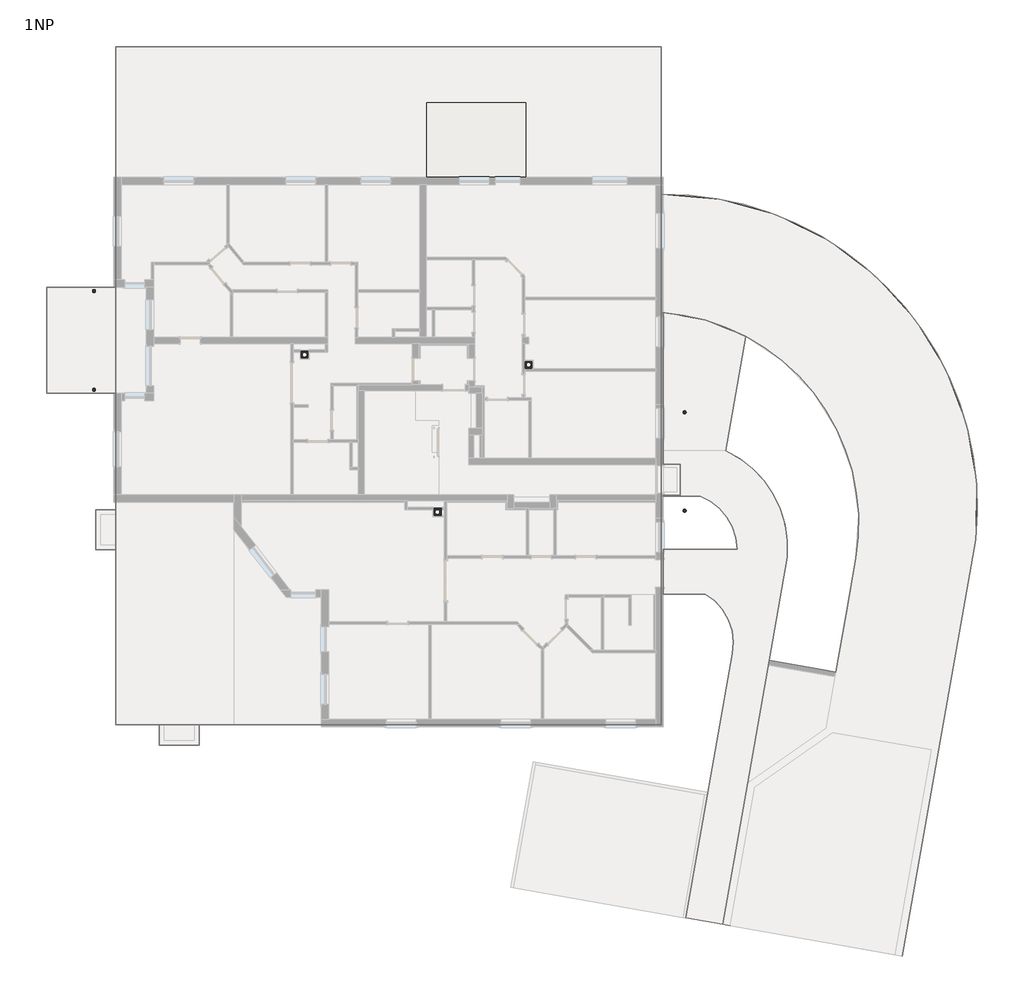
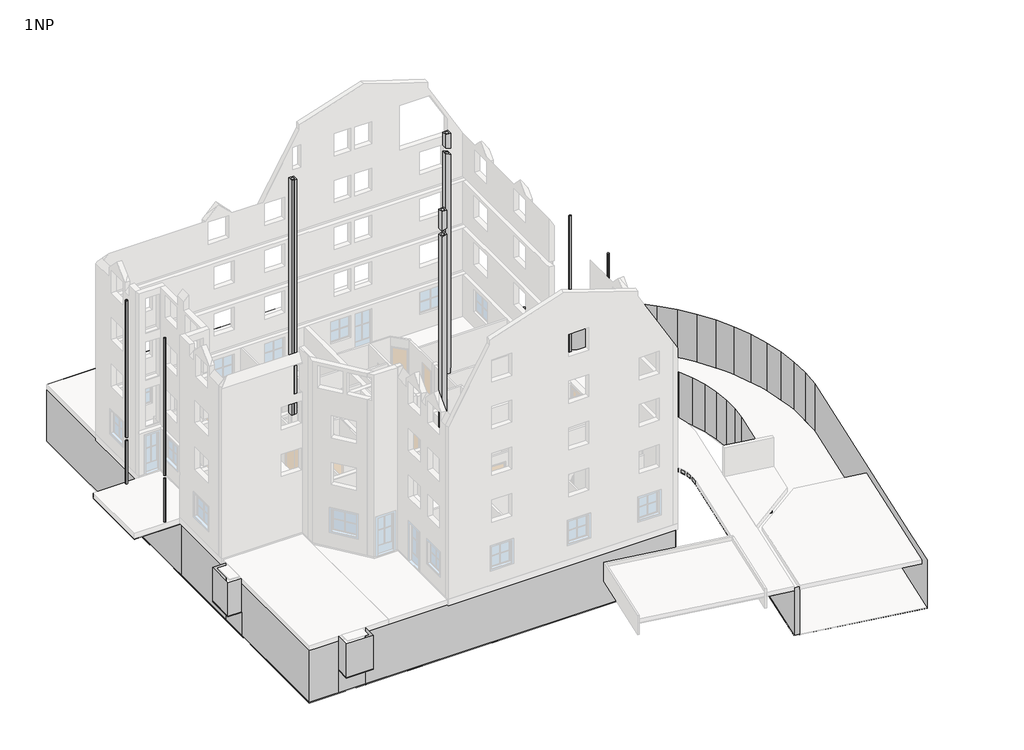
# One storey, part 7 of 7: 7 columns, 6 proxies, 1 slab.
"""IFC4 building model written with IfcOpenShell, lengths in millimetres."""

from ifc_helpers import new_model, si_unit, point, frame, frame_2d, origin, origin_with_axes, place, context, project, spatial, polyline, circle_curve, ellipse_curve, trimmed, segment, composite_curve, outline, extrude, triangles, element, save
from ifc_brep_helpers import plane_surface, revolved_surface, advanced_brep

model = new_model("IFC4")

# Units and contexts
model_context = context("Model", 3, world=origin())
ifc_project = project(units=[si_unit("LENGTHUNIT", "METRE", prefix="MILLI")], contexts=[model_context])

# Site, building, storey
site = spatial("IfcSite", under=ifc_project)
building = spatial("IfcBuilding", under=site)
storey = spatial("IfcBuildingStorey", under=building, Name="1NP", Elevation=0.0)

# Proxies
placement = place(None, origin())
element("IfcBuildingElementProxy", 1, Name="Building Element Proxy", at=placement, inside=storey, context=model_context, shape_type="Tessellation", body=[
    triangles([(9282.8089691, 10201.4215027, -3720.1595535), (9282.8089691, 10201.4215027, -3140.159491), (9282.8089691, 5465.8076523, -3720.1595535), (9282.8089691, 5465.8076523, -3140.159491)], [[1, 4, 2], [1, 3, 4]], closed=False),
    triangles([(-12557.1916626, 6467.6290604, -3720.1595535), (-12557.1916626, 6467.6290604, -449.1595387), (-12557.1916626, 2217.6290279, -3720.1595535), (-12557.1916626, 2217.6290279, -449.1595387)], [[1, 4, 2], [1, 3, 4]], closed=False),
    triangles([(-12557.1916626, -2432.3710075, -3720.1595535), (-12557.1916626, -2432.3710075, -2260.1595715), (-12557.1916626, -4032.3710197, -3720.1595535), (-12557.1916626, -4032.3710197, -2260.1595715)], [[1, 4, 2], [1, 3, 4]], closed=False),
    triangles([(-9223.5910721, -11052.3707245, -3720.1595535), (-9223.5910721, -11052.3707245, -2260.1595715), (-10823.5916656, -11052.3707245, -3720.1595535), (-10823.5916656, -11052.3707245, -2260.1595715)], [[1, 4, 2], [1, 3, 4]], closed=False),
    triangles([(-12557.1916626, 6467.6290604, -3720.1595535), (-12557.1916626, 6467.6290604, -100.0000008), (-12557.1916626, 16107.629599, -3720.1595535), (-12557.1916626, 16107.629599, -100.0000008), (-10221.4830688, 16107.629599, -3720.1595535), (-10221.4830688, 16107.629599, -100.0000008), (9282.8089691, 16107.629599, -3720.1595535), (9282.8089691, 16107.629599, -100.0000008), (9282.8089691, 10201.4215027, -3720.1595535), (9282.8089691, 10201.4215027, -100.0000008)], [[1, 4, 2], [1, 3, 4], [3, 6, 4], [3, 5, 6], [5, 8, 6], [5, 7, 8], [7, 10, 8], [7, 9, 10]], closed=False),
    triangles([(-12557.1916626, -2432.3710075, -3720.1595535), (-12557.1916626, -2432.3710075, -100.0000008), (-12557.1916626, 2217.6290279, -3720.1595535), (-12557.1916626, 2217.6290279, -100.0000008)], [[1, 4, 2], [1, 3, 4]], closed=False),
    triangles([(-10823.5916656, -11052.3707245, -3720.1595535), (-10823.5916656, -11052.3707245, -100.0000008), (-12557.1916626, -11052.3707245, -3720.1595535), (-12557.1916626, -11052.3707245, -100.0000008), (-12557.1916626, -4032.3710197, -3720.1595535), (-12557.1916626, -4032.3710197, -100.0000008)], [[1, 4, 2], [1, 3, 4], [3, 6, 4], [3, 5, 6]], closed=False),
    triangles([(-9223.5910721, -11052.3707245, -3720.1595535), (-9223.5910721, -11052.3707245, -100.0000008), (5711.1287247, -11052.3707245, -3720.1595535), (5711.1287247, -11052.3707245, -100.0000008), (9282.8089691, -11052.3707245, -3720.1595535), (9282.8089691, -11052.3707245, -100.0000008), (9282.8089691, 5465.8076523, -3720.1595535), (9282.8089691, 5465.8076523, -100.0000008)], [[1, 4, 2], [1, 3, 4], [3, 6, 4], [3, 5, 6], [5, 8, 6], [5, 7, 8]], closed=False),
    triangles([(9282.8089691, 16107.629599, -3720.1595535), (-12557.1916626, 16107.629599, -3720.1595535), (-12557.1916626, -11052.3707245, -3720.1595535), (9282.8089691, -11052.3707245, -3720.1595535)], [[2, 3, 4], [4, 1, 2]], closed=False),
])
element("IfcBuildingElementProxy", 2, Name="Building Element Proxy", at=placement, inside=storey, context=model_context, shape_type="Tessellation", body=[
    triangles([(-9223.5910721, -11052.3707245, -2260.1595715), (-9223.5910721, -11052.3707245, -100.0000008), (-9223.5910721, -11872.3706726, -2260.1595715), (-9223.5910721, -11872.3706726, -100.0000008), (-10823.5916656, -11872.3706726, -2260.1595715), (-10823.5916656, -11872.3706726, -100.0000008), (-10823.5916656, -11052.3707245, -2260.1595715), (-10823.5916656, -11052.3707245, -100.0000008)], [[1, 4, 2], [1, 3, 4], [3, 6, 4], [3, 5, 6], [5, 8, 6], [5, 7, 8]], closed=False),
    triangles([(-9223.5910721, -11872.3706726, -2260.1595715), (-9223.5910721, -11052.3707245, -2260.1595715), (-10823.5916656, -11052.3707245, -2260.1595715), (-10823.5916656, -11872.3706726, -2260.1595715)], [[3, 4, 1], [1, 2, 3]], closed=False),
])
element("IfcBuildingElementProxy", 3, Name="Building Element Proxy", at=placement, inside=storey, context=model_context, shape_type="Tessellation", body=[
    triangles([(-12557.1916626, -2432.3710075, -2260.1595715), (-12557.1916626, -2432.3710075, -100.0000008), (-13363.5912781, -2432.3710075, -2260.1595715), (-13363.5912781, -2432.3710075, -100.0000008), (-13363.5912781, -4032.3710197, -2260.1595715), (-13363.5912781, -4032.3710197, -100.0000008), (-12557.1916626, -4032.3710197, -2260.1595715), (-12557.1916626, -4032.3710197, -100.0000008)], [[1, 4, 2], [1, 3, 4], [3, 6, 4], [3, 5, 6], [5, 8, 6], [5, 7, 8]], closed=False),
    triangles([(-12557.1916626, -2432.3710075, -2260.1595715), (-13363.5912781, -2432.3710075, -2260.1595715), (-13363.5912781, -4032.3710197, -2260.1595715), (-12557.1916626, -4032.3710197, -2260.1595715)], [[2, 3, 1], [4, 1, 3]], closed=False),
])
element("IfcBuildingElementProxy", 4, Name="Building Element Proxy", at=placement, inside=storey, context=model_context, shape_type="Tessellation", body=[
    triangles([(-12557.1916626, 6467.6290604, -449.1595387), (-12557.1916626, 6467.6290604, -100.0000008), (-15337.1963928, 6467.6290604, -449.1595387), (-15337.1963928, 6467.6290604, -100.0000008), (-15337.1963928, 2217.6290279, -449.1595387), (-15337.1963928, 2217.6290279, -100.0000008), (-12557.1916626, 2217.6290279, -449.1595387), (-12557.1916626, 2217.6290279, -100.0000008)], [[1, 4, 2], [1, 3, 4], [3, 6, 4], [3, 5, 6], [5, 8, 6], [5, 7, 8]], closed=False),
    triangles([(-12557.1916626, 6467.6290604, -449.1595387), (-15337.1963928, 6467.6290604, -449.1595387), (-15337.1963928, 2217.6290279, -449.1595387), (-12557.1916626, 2217.6290279, -449.1595387)], [[2, 3, 1], [4, 1, 3]], closed=False),
])
element("IfcBuildingElementProxy", 5, Name="Building Element Proxy", at=placement, inside=storey, context=model_context, shape_type="Tessellation", body=[
    triangles([(13590.5518433, -8463.0683075, -3140.159491), (13590.5518433, -8463.0683075, -310.1595202), (12738.306189, -13373.552298, -3140.159491), (12738.306189, -13373.552298, -310.1595202), (12557.7834869, -14397.3467834, -3140.159491), (12557.7834869, -14397.3467834, -310.1595202), (11738.8509155, -19041.7458527, -3140.159491), (11738.8509155, -19041.7458527, -310.1595202)], [[1, 4, 2], [1, 3, 4], [3, 6, 4], [3, 5, 6], [5, 8, 6], [5, 7, 8]], closed=False),
    triangles([(9282.8089691, 5465.8076523, -3140.159491), (9282.8089691, 5465.8076523, -100.0000008), (10159.5601044, 5359.3926361, -3140.159491), (10159.5601044, 5359.3926361, -100.0000008), (11020.4854614, 5162.3546631, -3140.159491), (11020.4854614, 5162.3546631, -100.0000008), (11856.24375, 4876.8313934, -3140.159491), (11856.24375, 4876.8313934, -100.0000008), (12657.7680817, 4505.9200218, -3140.159491), (12657.7680817, 4505.9200218, -100.0000008), (13416.3624756, 4053.6458839, -3140.159491), (13416.3624756, 4053.6458839, -100.0000008), (14123.7948761, 3524.9153664, -3140.159491), (14123.7948761, 3524.9153664, -100.0000008), (14772.3901703, 2925.4656189, -3140.159491), (14772.3901703, 2925.4656189, -100.0000008), (15355.1115784, 2261.8000237, -3140.159491), (15355.1115784, 2261.8000237, -100.0000008), (15865.6373932, 1541.1195946, -3140.159491), (15865.6373932, 1541.1195946, -100.0000008), (16298.4272552, 771.2434038, -3140.159491), (16298.4272552, 771.2434038, -100.0000008), (16648.7861023, -39.475561, -3140.159491), (16648.7861023, -39.475561, -100.0000008), (16912.9130035, -882.2411345, -3140.159491), (16912.9130035, -882.2411345, -100.0000008), (17087.9406921, -1747.9094433, -3140.159491), (17087.9406921, -1747.9094433, -100.0000008), (17171.9716095, -2627.088192, -3140.159491), (17171.9716095, -2627.088192, -100.0000008), (17164.0941833, -3510.2383553, -3140.159491), (17164.0941833, -3510.2383553, -100.0000008), (17064.3932922, -4387.7783958, -3140.159491), (17064.3932922, -4387.7783958, -100.0000008), (16675.2856476, -6594.5137573, -3140.159491), (16675.2856476, -6594.5137573, -100.0000008), (16262.7282715, -8934.24478, -3140.159491), (16262.7282715, -8934.24478, -100.0000008), (15510.607901, -8801.6261307, -3140.159491), (15510.607901, -8801.6261307, -100.0000008), (13590.5518433, -8463.0683075, -3140.159491), (13590.5518433, -8463.0683075, -100.0000008)], [[1, 4, 2], [1, 3, 4], [3, 6, 4], [3, 5, 6], [5, 8, 6], [5, 7, 8], [7, 10, 8], [7, 9, 10], [9, 12, 10], [9, 11, 12], [11, 14, 12], [11, 13, 14], [13, 16, 14], [13, 15, 16], [15, 18, 16], [15, 17, 18], [17, 20, 18], [17, 19, 20], [19, 22, 20], [19, 21, 22], [21, 24, 22], [21, 23, 24], [23, 26, 24], [23, 25, 26], [25, 28, 26], [25, 27, 28], [27, 30, 28], [27, 29, 30], [29, 32, 30], [29, 31, 32], [31, 34, 32], [31, 33, 34], [33, 36, 34], [33, 35, 36], [35, 38, 36], [35, 37, 38], [37, 40, 38], [37, 39, 40], [39, 42, 40], [39, 41, 42]], closed=False),
    triangles([(12034.2933472, -19093.8403473, -3140.159491), (12034.2933472, -19093.8403473, -100.0000008), (11738.8509155, -19041.7458527, -3140.159491), (11738.8509155, -19041.7458527, -100.0000008)], [[1, 4, 2], [1, 3, 4]], closed=False),
    triangles([(9282.8089691, 10201.4215027, -3140.159491), (9282.8089691, 10201.4215027, -100.0000008), (10392.6609924, 10161.5460297, -3140.159491), (10392.6609924, 10161.5460297, -100.0000008), (11494.6402405, 10023.6858398, -3140.159491), (11494.6402405, 10023.6858398, -100.0000008), (12580.1111938, 9788.9199371, -3140.159491), (12580.1111938, 9788.9199371, -100.0000008), (13640.5708832, 9459.0883255, -3140.159491), (13640.5708832, 9459.0883255, -100.0000008), (14667.7093506, 9036.7745682, -3140.159491), (14667.7093506, 9036.7745682, -100.0000008), (15653.4805756, 8525.2877655, -3140.159491), (15653.4805756, 8525.2877655, -100.0000008), (16590.160611, 7928.635231, -3140.159491), (16590.160611, 7928.635231, -100.0000008), (17470.4092072, 7251.4916794, -3140.159491), (17470.4092072, 7251.4916794, -100.0000008), (18287.3325989, 6499.1620193, -3140.159491), (18287.3325989, 6499.1620193, -100.0000008), (19034.5288513, 5677.5418213, -3140.159491), (19034.5288513, 5677.5418213, -100.0000008), (19706.1436707, 4793.0667389, -3140.159491), (19706.1436707, 4793.0667389, -100.0000008), (20296.9169128, 3852.6671631, -3140.159491), (20296.9169128, 3852.6671631, -100.0000008), (20802.2163025, 2863.7109581, -3140.159491), (20802.2163025, 2863.7109581, -100.0000008), (21176.8329712, 1936.1001366, -3140.159491), (21176.8329712, 1936.1001366, -100.0000008), (21218.0862671, 1833.9466335, -3140.159491), (21218.0862671, 1833.9466335, -100.0000008), (21541.268866, 771.4416475, -3140.159491), (21541.268866, 771.4416475, -100.0000008), (21563.8628357, 663.7140661, -3140.159491), (21563.8628357, 663.7140661, -100.0000008), (21769.2293701, -315.4792173, -3140.159491), (21769.2293701, -315.4792173, -100.0000008), (21900.181842, -1418.3002018, -3140.159491), (21900.181842, -1418.3002018, -100.0000008), (21933.1030884, -2528.3808449, -3140.159491), (21933.1030884, -2528.3808449, -100.0000008), (21867.7326599, -3637.0239304, -3140.159491), (21867.7326599, -3637.0239304, -100.0000008), (19309.6039215, -18144.8994324, -3140.159491), (19309.6039215, -18144.8994324, -100.0000008), (18927.9481476, -20309.3766174, -3140.159491), (18927.9481476, -20309.3766174, -100.0000008)], [[1, 4, 2], [1, 3, 4], [3, 6, 4], [3, 5, 6], [5, 8, 6], [5, 7, 8], [7, 10, 8], [7, 9, 10], [9, 12, 10], [9, 11, 12], [11, 14, 12], [11, 13, 14], [13, 16, 14], [13, 15, 16], [15, 18, 16], [15, 17, 18], [17, 20, 18], [17, 19, 20], [19, 22, 20], [19, 21, 22], [21, 24, 22], [21, 23, 24], [23, 26, 24], [23, 25, 26], [25, 28, 26], [25, 27, 28], [27, 30, 28], [27, 29, 30], [29, 32, 30], [29, 31, 32], [31, 34, 32], [31, 33, 34], [33, 36, 34], [33, 35, 36], [35, 38, 36], [35, 37, 38], [37, 40, 38], [37, 39, 40], [39, 42, 40], [39, 41, 42], [41, 44, 42], [41, 43, 44], [43, 46, 44], [43, 45, 46], [45, 48, 46], [45, 47, 48]], closed=False),
    triangles([(18927.9481476, -20309.3766174, -3140.159491), (21867.7326599, -3637.0239304, -3140.159491), (21933.1030884, -2528.3808449, -3140.159491), (21900.181842, -1418.3002018, -3140.159491), (21769.2293701, -315.4792173, -3140.159491), (21541.268866, 771.4416475, -3140.159491), (21218.0862671, 1833.9466335, -3140.159491), (20802.2163025, 2863.7109581, -3140.159491), (20296.9169128, 3852.6671631, -3140.159491), (19706.1436707, 4793.0667389, -3140.159491), (19034.5288513, 5677.5418213, -3140.159491), (18287.3325989, 6499.1620193, -3140.159491), (17470.4092072, 7251.4916794, -3140.159491), (16590.160611, 7928.635231, -3140.159491), (15653.4805756, 8525.2877655, -3140.159491), (14667.7093506, 9036.7745682, -3140.159491), (13640.5708832, 9459.0883255, -3140.159491), (12580.1111938, 9788.9199371, -3140.159491), (11494.6402405, 10023.6858398, -3140.159491), (10392.6609924, 10161.5460297, -3140.159491), (9282.8089691, 10201.4215027, -3140.159491), (9282.8089691, 5465.8076523, -3140.159491), (10159.5601044, 5359.3926361, -3140.159491), (11020.4854614, 5162.3546631, -3140.159491), (11856.24375, 4876.8313934, -3140.159491), (12657.7680817, 4505.9200218, -3140.159491), (13416.3624756, 4053.6458839, -3140.159491), (14123.7948761, 3524.9153664, -3140.159491), (14772.3901703, 2925.4656189, -3140.159491), (15355.1115784, 2261.8000237, -3140.159491), (15865.6373932, 1541.1195946, -3140.159491), (16298.4272552, 771.2434038, -3140.159491), (16648.7861023, -39.475561, -3140.159491), (16912.9130035, -882.2411345, -3140.159491), (17087.9406921, -1747.9094433, -3140.159491), (17171.9716095, -2627.088192, -3140.159491), (17164.0941833, -3510.2383553, -3140.159491), (17064.3932922, -4387.7783958, -3140.159491), (16262.7282715, -8934.24478, -3140.159491), (13590.5518433, -8463.0683075, -3140.159491), (12738.306189, -13373.552298, -3140.159491), (11738.8509155, -19041.7458527, -3140.159491)], [[39, 41, 1], [26, 27, 15], [41, 39, 40], [10, 30, 31], [13, 28, 29], [14, 27, 28], [29, 30, 11], [41, 42, 1], [15, 27, 14], [20, 23, 19], [22, 20, 21], [20, 22, 23], [23, 24, 19], [26, 16, 25], [16, 26, 15], [25, 16, 17], [18, 19, 24], [18, 25, 17], [18, 24, 25], [37, 38, 2], [35, 36, 4], [34, 35, 5], [37, 2, 36], [3, 36, 2], [35, 4, 5], [36, 3, 4], [38, 39, 2], [34, 5, 6], [29, 11, 12], [13, 14, 28], [29, 12, 13], [32, 33, 7], [31, 32, 9], [32, 7, 8], [8, 9, 32], [11, 30, 10], [9, 10, 31], [7, 33, 6], [33, 34, 6], [39, 1, 2]], closed=False),
])
element("IfcBuildingElementProxy", 6, Name="Building Element Proxy", at=placement, inside=storey, context=model_context, shape_type="Tessellation", body=[
    triangles([(11738.8509155, -19041.7458527, -310.1595202), (11738.8509155, -19041.7458527, -100.0000008), (10248.0349365, -18781.2733795, -310.1595202), (10248.0349365, -18781.2733795, -100.0000008), (10249.849942, -18770.9740082, -310.1595202), (10249.849942, -18770.9740082, -100.0000008), (12113.1583008, -8203.6289108, -310.1595202), (12113.1583008, -8203.6289108, -100.0000008), (12159.5566315, -7739.3892242, -310.1595202), (12159.5566315, -7739.3892242, -100.0000008), (12108.1772095, -7275.6745056, -310.1595202), (12108.1772095, -7275.6745056, -100.0000008), (11961.2791992, -6832.851535, -310.1595202), (11961.2791992, -6832.851535, -100.0000008), (11725.3133698, -6430.3697067, -310.1595202), (11725.3133698, -6430.3697067, -100.0000008), (11410.6442047, -6085.9075928, -310.1595202), (11410.6442047, -6085.9075928, -100.0000008), (11031.0906281, -5814.5939209, -310.1595202), (11031.0906281, -5814.5939209, -100.0000008), (9362.8035049, -5814.5939209, -310.1595202), (9362.8035049, -5814.5939209, -100.0000008), (9362.8035049, -4014.5939072, -310.1595202), (9362.8035049, -4014.5939072, -100.0000008), (12309.6439819, -4014.5939072, -310.1595202), (12309.6439819, -4014.5939072, -100.0000008), (12258.1110809, -3561.7892784, -310.1595202), (12258.1110809, -3561.7892784, -100.0000008), (12118.4858826, -3127.9776764, -310.1595202), (12118.4858826, -3127.9776764, -100.0000008), (11896.2296814, -2730.1214378, -310.1595202), (11896.2296814, -2730.1214378, -100.0000008), (11600.0303192, -2383.7776073, -310.1595202), (11600.0303192, -2383.7776073, -100.0000008), (11241.4719727, -2102.4885269, -310.1595202), (11241.4719727, -2102.4885269, -100.0000008), (10834.5747162, -1897.2530891, -310.1595202), (10834.5747162, -1897.2530891, -100.0000008), (9362.8035049, -1897.2530891, -310.1595202), (9362.8035049, -1897.2530891, -100.0000008), (9362.8035049, -1852.370945, -310.1595202), (9362.8035049, -1852.370945, -100.0000008), (10036.4083191, -1852.370945, -310.1595202), (10036.4083191, -1852.370945, -100.0000008), (10036.4083191, -612.3709791, -310.1595202), (10036.4083191, -612.3709791, -100.0000008), (9362.8035049, -612.3709791, -310.1595202), (9362.8035049, -612.3709791, -100.0000008), (9362.8035049, 5449.8940887, -310.1595202), (9362.8035049, 5449.8940887, -100.0000008), (10219.316922, 5338.5723953, -310.1595202), (10219.316922, 5338.5723953, -100.0000008), (11060.0365356, 5140.5902939, -310.1595202), (11060.0365356, 5140.5902939, -100.0000008), (11876.2181122, 4858.0075424, -310.1595202), (11876.2181122, 4858.0075424, -100.0000008), (12659.3737976, 4493.762915, -310.1595202), (12659.3737976, 4493.762915, -100.0000008), (11854.5147858, -70.8200504, -310.1595202), (11854.5147858, -70.8200504, -100.0000008), (12427.6321289, -390.5782308, -310.1595202), (12427.6321289, -390.5782308, -100.0000008), (12944.9470642, -794.4269451, -310.1595202), (12944.9470642, -794.4269451, -100.0000008), (13394.2277802, -1272.8163494, -310.1595202), (13394.2277802, -1272.8163494, -100.0000008), (13764.8481812, -1814.4337257, -310.1595202), (13764.8481812, -1814.4337257, -100.0000008), (14048.0448486, -2406.4714256, -310.1595202), (14048.0448486, -2406.4714256, -100.0000008), (14237.120517, -3034.9289955, -310.1595202), (14237.120517, -3034.9289955, -100.0000008), (14327.6045288, -3684.9457146, -310.1595202), (14327.6045288, -3684.9457146, -100.0000008), (14317.3574799, -4341.1498466, -310.1595202), (14317.3574799, -4341.1498466, -100.0000008), (13590.5518433, -8463.0683075, -310.1595202), (13590.5518433, -8463.0683075, -100.0000008)], [[1, 4, 2], [1, 3, 4], [3, 6, 4], [3, 5, 6], [5, 8, 6], [5, 7, 8], [7, 10, 8], [7, 9, 10], [9, 12, 10], [9, 11, 12], [11, 14, 12], [11, 13, 14], [13, 16, 14], [13, 15, 16], [15, 18, 16], [15, 17, 18], [17, 20, 18], [17, 19, 20], [19, 22, 20], [19, 21, 22], [21, 24, 22], [21, 23, 24], [23, 26, 24], [23, 25, 26], [25, 28, 26], [25, 27, 28], [27, 30, 28], [27, 29, 30], [29, 32, 30], [29, 31, 32], [31, 34, 32], [31, 33, 34], [33, 36, 34], [33, 35, 36], [35, 38, 36], [35, 37, 38], [37, 40, 38], [37, 39, 40], [39, 42, 40], [39, 41, 42], [41, 44, 42], [41, 43, 44], [43, 46, 44], [43, 45, 46], [45, 48, 46], [45, 47, 48], [47, 50, 48], [47, 49, 50], [49, 52, 50], [49, 51, 52], [51, 54, 52], [51, 53, 54], [53, 56, 54], [53, 55, 56], [55, 58, 56], [55, 57, 58], [57, 60, 58], [57, 59, 60], [59, 62, 60], [59, 61, 62], [61, 64, 62], [61, 63, 64], [63, 66, 64], [63, 65, 66], [65, 68, 66], [65, 67, 68], [67, 70, 68], [67, 69, 70], [69, 72, 70], [69, 71, 72], [71, 74, 72], [71, 73, 74], [73, 76, 74], [73, 75, 76], [75, 78, 76], [75, 77, 78]], closed=False),
    triangles([(14317.3574799, -4341.1498466, -310.1595202), (14327.6045288, -3684.9457146, -310.1595202), (14237.120517, -3034.9289955, -310.1595202), (14048.0448486, -2406.4714256, -310.1595202), (13764.8481812, -1814.4337257, -310.1595202), (13394.2277802, -1272.8163494, -310.1595202), (12944.9470642, -794.4269451, -310.1595202), (12427.6321289, -390.5782308, -310.1595202), (11854.5147858, -70.8200504, -310.1595202), (12659.3737976, 4493.762915, -310.1595202), (11876.2181122, 4858.0075424, -310.1595202), (11060.0365356, 5140.5902939, -310.1595202), (10219.316922, 5338.5723953, -310.1595202), (9362.8035049, 5449.8940887, -310.1595202), (9362.8035049, -612.3709791, -310.1595202), (10036.4083191, -612.3709791, -310.1595202), (10036.4083191, -1852.370945, -310.1595202), (9362.8035049, -1852.370945, -310.1595202), (9362.8035049, -1897.2530891, -310.1595202), (10834.5747162, -1897.2530891, -310.1595202), (11241.4719727, -2102.4885269, -310.1595202), (11600.0303192, -2383.7776073, -310.1595202), (11896.2296814, -2730.1214378, -310.1595202), (12118.4858826, -3127.9776764, -310.1595202), (12258.1110809, -3561.7892784, -310.1595202), (12309.6439819, -4014.5939072, -310.1595202), (9362.8035049, -4014.5939072, -310.1595202), (9362.8035049, -5814.5939209, -310.1595202), (11031.0906281, -5814.5939209, -310.1595202), (11410.6442047, -6085.9075928, -310.1595202), (11725.3133698, -6430.3697067, -310.1595202), (11961.2791992, -6832.851535, -310.1595202), (12108.1772095, -7275.6745056, -310.1595202), (12159.5566315, -7739.3892242, -310.1595202), (12113.1583008, -8203.6289108, -310.1595202), (10248.0349365, -18781.2733795, -310.1595202), (11738.8509155, -19041.7458527, -310.1595202), (12738.306189, -13373.552298, -310.1595202), (13590.5518433, -8463.0683075, -310.1595202)], [[29, 27, 28], [31, 26, 30], [26, 27, 29], [30, 26, 29], [9, 21, 8], [21, 22, 7], [35, 36, 38], [18, 19, 17], [14, 15, 13], [16, 20, 9], [20, 16, 17], [16, 12, 13], [12, 16, 9], [12, 9, 11], [20, 21, 9], [16, 13, 15], [20, 17, 19], [38, 36, 37], [34, 35, 39], [33, 1, 32], [33, 34, 39], [1, 33, 39], [26, 1, 2], [31, 1, 26], [26, 2, 25], [39, 35, 38], [25, 2, 3], [21, 7, 8], [9, 10, 11], [23, 24, 5], [23, 6, 22], [4, 5, 24], [7, 22, 6], [23, 5, 6], [3, 4, 24], [24, 25, 3], [31, 32, 1]], closed=False),
])

# Columns
element("IfcColumn", 7, ObjectType="AT Kamin : 300/300/160", at=placement, inside=storey, context=model_context, shape_type="AdvancedBrep", body=[
    advanced_brep(
    [(-4857.1962165, 3917.6290541, 17750.0), (-5157.1962165, 3917.6290541, 17750.0), (-5157.1962165, 3617.6290541, 17750.0), (-4857.1962165, 3617.6290541, 17750.0), (-5087.1962165, 3767.6290541, 17750.0), (-4927.1962165, 3767.6290541, 17750.0), (-4857.1962165, 3917.6290541, 0.0), (-4857.1962165, 3867.6290541, 0.0), (-4857.1962165, 3617.6290541, 0.0), (-5157.1962165, 3617.6290541, 0.0), (-5157.1962165, 3867.6290541, 0.0), (-5157.1962165, 3917.6290541, 0.0), (-5087.1962165, 3767.6290541, 0.0), (-4927.1962165, 3767.6290541, 0.0), (-5157.1962165, 3617.6290541, 2950.0), (-5157.1962165, 3617.6290541, 5900.0), (-5157.1962165, 3617.6290541, 8850.0), (-5157.1962165, 3617.6290541, 11800.0), (-5157.1962165, 3617.6290541, 14750.0), (-4857.1962165, 3617.6290541, 2950.0)],
    [
        (0, 1),
        (1, 2),
        (2, 3),
        (3, 0),
        (4, 5, circle_curve(frame((-5007.1962165, 3767.6290541, 17750.0), z_axis=(0.0, 0.0, -1.0), x_axis=(1.0, 0.0, 0.0)), 80.0)),
        (5, 4, circle_curve(frame((-5007.1962165, 3767.6290541, 17750.0), z_axis=(0.0, 0.0, -1.0), x_axis=(1.0, 0.0, 0.0)), 80.0)),
        (6, 7),
        (7, 8),
        (8, 9),
        (9, 10),
        (10, 11),
        (11, 6),
        (12, 13, circle_curve(frame((-5007.1962165, 3767.6290541, 0.0), z_axis=(0.0, 0.0, 1.0), x_axis=(1.0, 0.0, 0.0)), 80.0)),
        (13, 12, circle_curve(frame((-5007.1962165, 3767.6290541, 0.0), z_axis=(0.0, 0.0, 1.0), x_axis=(1.0, 0.0, 0.0)), 80.0)),
        (0, 6),
        (11, 1),
        (9, 14),
        (14, 15),
        (15, 16),
        (16, 17),
        (17, 18),
        (18, 2),
        (8, 19),
        (19, 3),
        (4, 12),
        (13, 5),
    ],
    [
        plane_surface(frame((-5157.1962165, 3917.6290541, 17750.0), z_axis=(0.0, 0.0, 1.0), x_axis=(-1.0, 0.0, 0.0))),
        plane_surface(frame((-5157.1962165, 3917.6290541, 0.0), z_axis=(0.0, 0.0, -1.0), x_axis=(1.0, 0.0, 0.0))),
        plane_surface(frame((-4857.1962165, 3917.6290541, 17750.0), z_axis=(0.0, 1.0, 0.0), x_axis=(0.0, 0.0, -1.0))),
        plane_surface(frame((-5157.1962165, 3917.6290541, 17750.0), z_axis=(-1.0, 0.0, 0.0), x_axis=(0.0, 0.0, -1.0))),
        plane_surface(frame((-5157.1962165, 3617.6290541, 17750.0), z_axis=(0.0, -1.0, 0.0), x_axis=(0.0, 0.0, -1.0))),
        plane_surface(frame((-4857.1962165, 3617.6290541, 17750.0), z_axis=(1.0, 0.0, 0.0), x_axis=(0.0, 0.0, -1.0))),
        revolved_surface(polyline([(-4927.1962165, 3767.6290541, 0.0), (-4927.1962165, 3767.6290541, 17750.0)]), (-5007.1962165, 3767.6290541, 0.0), (0.0, 0.0, -1.0)),
    ],
    [
        (0, [[1, 2, 3, 4], [5, 6]]),
        (1, [[7, 8, 9, 10, 11, 12], [13, 14]]),
        (2, [[-1, 15, -12, 16]]),
        (3, [[-2, -16, -11, -10, 17, 18, 19, 20, 21, 22]]),
        (4, [[-3, -22, -21, -20, -19, -18, -17, -9, 23, 24]]),
        (5, [[-4, -24, -23, -8, -7, -15]]),
        (6, [[-5, 25, -14, 26]]),
        (6, [[-6, -26, -13, -25]]),
    ],
),
])
element("IfcColumn", 8, ObjectType="AT Kamin : 300/300/160", at=placement, inside=storey, context=model_context, shape_type="AdvancedBrep", body=[
    advanced_brep(
    [(4112.8037835, 3516.2076978, 17750.0), (3812.8037835, 3516.2076978, 17750.0), (3812.8037835, 3216.2076978, 17750.0), (4112.8037835, 3216.2076978, 17750.0), (3882.8037835, 3366.2076978, 17750.0), (4042.8037835, 3366.2076978, 17750.0), (4112.8037835, 3516.2076978, 16807.8848523), (3812.8037835, 3516.2076978, 16905.3607612), (3812.8037835, 3216.2076978, 16905.3607612), (4112.8037835, 3216.2076978, 16807.8848523), (3882.8037835, 3366.2076978, 16882.6163825), (4042.8037835, 3366.2076978, 16830.6292311)],
    [
        (0, 1),
        (1, 2),
        (2, 3),
        (3, 0),
        (4, 5, circle_curve(frame((3962.8037835, 3366.2076978, 17750.0), z_axis=(0.0, 0.0, -1.0), x_axis=(1.0, 0.0, 0.0)), 80.0)),
        (5, 4, circle_curve(frame((3962.8037835, 3366.2076978, 17750.0), z_axis=(0.0, 0.0, -1.0), x_axis=(1.0, 0.0, 0.0)), 80.0)),
        (0, 6),
        (6, 7),
        (7, 1),
        (7, 8),
        (8, 2),
        (8, 9),
        (9, 3),
        (9, 6),
        (4, 10),
        (10, 11, ellipse_curve(frame((3962.8037835, 3366.2076978, 16856.6228068), z_axis=(-0.30901699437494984, 0.0, -0.9510565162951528), x_axis=(0.9510565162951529, 0.0, -0.30901699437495)), 84.1169779, 80.0)),
        (11, 5),
        (11, 10, ellipse_curve(frame((3962.8037835, 3366.2076978, 16856.6228068), z_axis=(-0.30901699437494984, 0.0, -0.9510565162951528), x_axis=(0.9510565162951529, 0.0, -0.30901699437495)), 84.1169779, 80.0)),
    ],
    [
        plane_surface(frame((3812.8037835, 3516.2076978, 17750.0), z_axis=(0.0, 0.0, 1.0), x_axis=(-1.0, 0.0, 0.0))),
        plane_surface(frame((4112.8037835, 3516.2076978, 17750.0), z_axis=(0.0, 1.0, 0.0), x_axis=(0.0, 0.0, -1.0))),
        plane_surface(frame((3812.8037835, 3516.2076978, 17750.0), z_axis=(-1.0, 0.0, 0.0), x_axis=(0.0, 0.0, -1.0))),
        plane_surface(frame((3812.8037835, 3216.2076978, 17750.0), z_axis=(0.0, -1.0, 0.0), x_axis=(0.0, 0.0, -1.0))),
        plane_surface(frame((4112.8037835, 3216.2076978, 17750.0), z_axis=(1.0, 0.0, 0.0), x_axis=(0.0, 0.0, -1.0))),
        revolved_surface(polyline([(4042.8037835, 3366.2076978, 16830.6292311), (4042.8037835, 3366.2076978, 17750.0)]), (3962.8037835, 3366.2076978, 0.0), (0.0, 0.0, -1.0)),
        plane_surface(frame((6985.5802922, -11532.3709459, 15874.4631818), z_axis=(-0.30901699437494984, 0.0, -0.9510565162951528), x_axis=(0.0, 1.0, 0.0))),
    ],
    [
        (0, [[1, 2, 3, 4], [5, 6]]),
        (1, [[-1, 7, 8, 9]]),
        (2, [[-2, -9, 10, 11]]),
        (3, [[-3, -11, 12, 13]]),
        (4, [[-4, -13, 14, -7]]),
        (5, [[-5, 15, 16, 17]]),
        (5, [[-6, -17, 18, -15]]),
        (6, [[-8, -14, -12, -10], [-16, -18]]),
    ],
),
    advanced_brep(
    [(4112.8037835, 3516.2076978, 0.0), (4112.8037835, 3216.2076978, 0.0), (3812.8037835, 3216.2076978, 0.0), (3812.8037835, 3516.2076978, 0.0), (3882.8037835, 3366.2076978, 0.0), (4042.8037835, 3366.2076978, 0.0), (4112.8037835, 3516.2076978, 16429.3584516), (3812.8037835, 3516.2076978, 16526.8343605), (3812.8037835, 3216.2076978, 16526.8343605), (3882.8037835, 3216.2076978, 16504.0899817), (4112.8037835, 3216.2076978, 16429.3584516), (3882.8037835, 3366.2076978, 16504.0899817), (4042.8037835, 3366.2076978, 16452.1028303), (3812.8037835, 3516.2076978, 2950.0), (4112.8037835, 3516.2076978, 2950.0), (3812.8037835, 3216.2076978, 2630.0), (3812.8037835, 3216.2076978, 2950.0), (3812.8037835, 3216.2076978, 5580.0), (3812.8037835, 3216.2076978, 5900.0), (3812.8037835, 3216.2076978, 8530.0), (3812.8037835, 3216.2076978, 8850.0), (3812.8037835, 3216.2076978, 11480.0), (4112.8037835, 3216.2076978, 2950.0), (4112.8037835, 3216.2076978, 5900.0), (4112.8037835, 3216.2076978, 8850.0), (4112.8037835, 3216.2076978, 11800.0)],
    [
        (0, 1),
        (1, 2),
        (2, 3),
        (3, 0),
        (4, 5, circle_curve(frame((3962.8037835, 3366.2076978, 0.0), z_axis=(0.0, 0.0, 1.0), x_axis=(1.0, 0.0, 0.0)), 80.0)),
        (5, 4, circle_curve(frame((3962.8037835, 3366.2076978, 0.0), z_axis=(0.0, 0.0, 1.0), x_axis=(1.0, 0.0, 0.0)), 80.0)),
        (6, 7),
        (7, 8),
        (8, 9),
        (9, 10),
        (10, 6),
        (11, 12, ellipse_curve(frame((3962.8037835, 3366.2076978, 16478.096406), z_axis=(-0.30901699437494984, 0.0, -0.9510565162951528), x_axis=(0.9510565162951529, 0.0, -0.30901699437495)), 84.1169779, 80.0)),
        (12, 11, ellipse_curve(frame((3962.8037835, 3366.2076978, 16478.096406), z_axis=(-0.30901699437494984, 0.0, -0.9510565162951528), x_axis=(0.9510565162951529, 0.0, -0.30901699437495)), 84.1169779, 80.0)),
        (3, 13),
        (13, 7),
        (6, 14),
        (14, 0),
        (2, 15),
        (15, 16),
        (16, 17),
        (17, 18),
        (18, 19),
        (19, 20),
        (20, 21),
        (21, 8),
        (1, 22),
        (22, 23),
        (23, 24),
        (24, 25),
        (25, 10),
        (5, 12),
        (11, 4),
    ],
    [
        plane_surface(frame((3812.8037835, 3516.2076978, 0.0), z_axis=(0.0, 0.0, -1.0), x_axis=(1.0, 0.0, 0.0))),
        plane_surface(frame((6985.5802922, -11532.3709459, 15495.936781), z_axis=(0.30901699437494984, 0.0, 0.9510565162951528), x_axis=(0.0, 1.0, 0.0))),
        plane_surface(frame((4112.8037835, 3516.2076978, 17750.0), z_axis=(0.0, 1.0, 0.0), x_axis=(0.0, 0.0, -1.0))),
        plane_surface(frame((3812.8037835, 3516.2076978, 17750.0), z_axis=(-1.0, 0.0, 0.0), x_axis=(0.0, 0.0, -1.0))),
        plane_surface(frame((3812.8037835, 3216.2076978, 17750.0), z_axis=(0.0, -1.0, 0.0), x_axis=(0.0, 0.0, -1.0))),
        plane_surface(frame((4112.8037835, 3216.2076978, 17750.0), z_axis=(1.0, 0.0, 0.0), x_axis=(0.0, 0.0, -1.0))),
        revolved_surface(polyline([(4042.8037835, 3366.2076978, 0.0), (4042.8037835, 3366.2076978, 16504.0899817)]), (3962.8037835, 3366.2076978, 0.0), (0.0, 0.0, -1.0)),
    ],
    [
        (0, [[1, 2, 3, 4], [5, 6]]),
        (1, [[7, 8, 9, 10, 11], [12, 13]]),
        (2, [[-4, 14, 15, -7, 16, 17]]),
        (3, [[-3, 18, 19, 20, 21, 22, 23, 24, 25, -8, -15, -14]]),
        (4, [[-2, 26, 27, 28, 29, 30, -10, -9, -25, -24, -23, -22, -21, -20, -19, -18]]),
        (5, [[-1, -17, -16, -11, -30, -29, -28, -27, -26]]),
        (6, [[-6, 31, -12, 32]]),
        (6, [[-5, -32, -13, -31]]),
    ],
),
])
element("IfcColumn", 9, ObjectType="AT Kamin : 300/300/160", at=placement, inside=storey, context=model_context, shape_type="AdvancedBrep", body=[
    advanced_brep(
    [(463.5618728, -2382.3709459, 17750.0), (163.5618728, -2382.3709459, 17750.0), (163.5618728, -2682.3709459, 17750.0), (463.5618728, -2682.3709459, 17750.0), (233.5618728, -2532.3709459, 17750.0), (393.5618728, -2532.3709459, 17750.0), (463.5618728, -2382.3709459, 16623.4506996), (163.5618728, -2382.3709459, 16525.9747908), (163.5618728, -2682.3709459, 16525.9747908), (463.5618728, -2682.3709459, 16623.4506996), (233.5618728, -2532.3709459, 16548.7191695), (393.5618728, -2532.3709459, 16600.7063209)],
    [
        (0, 1),
        (1, 2),
        (2, 3),
        (3, 0),
        (4, 5, circle_curve(frame((313.5618728, -2532.3709459, 17750.0), z_axis=(0.0, 0.0, -1.0), x_axis=(1.0, 0.0, 0.0)), 80.0)),
        (5, 4, circle_curve(frame((313.5618728, -2532.3709459, 17750.0), z_axis=(0.0, 0.0, -1.0), x_axis=(1.0, 0.0, 0.0)), 80.0)),
        (0, 6),
        (6, 7),
        (7, 1),
        (7, 8),
        (8, 2),
        (8, 9),
        (9, 3),
        (9, 6),
        (4, 10),
        (10, 11, ellipse_curve(frame((313.5618728, -2532.3709459, 16574.7127452), z_axis=(0.30901699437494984, 0.0, -0.9510565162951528), x_axis=(-0.9510565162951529, 0.0, -0.30901699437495)), 84.1169779, 80.0)),
        (11, 5),
        (11, 10, ellipse_curve(frame((313.5618728, -2532.3709459, 16574.7127452), z_axis=(0.30901699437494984, 0.0, -0.9510565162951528), x_axis=(-0.9510565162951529, 0.0, -0.30901699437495)), 84.1169779, 80.0)),
    ],
    [
        plane_surface(frame((163.5618728, -2382.3709459, 17750.0), z_axis=(0.0, 0.0, 1.0), x_axis=(-1.0, 0.0, 0.0))),
        plane_surface(frame((463.5618728, -2382.3709459, 17750.0), z_axis=(0.0, 1.0, 0.0), x_axis=(0.0, 0.0, -1.0))),
        plane_surface(frame((163.5618728, -2382.3709459, 17750.0), z_axis=(-1.0, 0.0, 0.0), x_axis=(0.0, 0.0, -1.0))),
        plane_surface(frame((163.5618728, -2682.3709459, 17750.0), z_axis=(0.0, -1.0, 0.0), x_axis=(0.0, 0.0, -1.0))),
        plane_surface(frame((463.5618728, -2682.3709459, 17750.0), z_axis=(1.0, 0.0, 0.0), x_axis=(0.0, 0.0, -1.0))),
        revolved_surface(polyline([(393.5618728, -2532.3709459, 16548.7191695), (393.5618728, -2532.3709459, 17750.0)]), (313.5618728, -2532.3709459, 0.0), (0.0, 0.0, -1.0)),
        plane_surface(frame((-1841.5846805, 437.0391776, 15874.4631818), z_axis=(0.30901699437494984, 0.0, -0.9510565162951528), x_axis=(0.0, -1.0, 0.0))),
    ],
    [
        (0, [[1, 2, 3, 4], [5, 6]]),
        (1, [[-1, 7, 8, 9]]),
        (2, [[-2, -9, 10, 11]]),
        (3, [[-3, -11, 12, 13]]),
        (4, [[-4, -13, 14, -7]]),
        (5, [[-5, 15, 16, 17]]),
        (5, [[-6, -17, 18, -15]]),
        (6, [[-8, -14, -12, -10], [-16, -18]]),
    ],
),
    advanced_brep(
    [(463.5618728, -2382.3709459, 0.0), (463.5618728, -2682.3709459, 0.0), (163.5618728, -2682.3709459, 0.0), (163.5618728, -2432.3709459, 0.0), (163.5618728, -2382.3709459, 0.0), (233.5618728, -2532.3709459, 0.0), (393.5618728, -2532.3709459, 0.0), (463.5618728, -2382.3709459, 16244.9242989), (163.5618728, -2382.3709459, 16147.44839), (163.5618728, -2682.3709459, 16147.44839), (463.5618728, -2682.3709459, 16244.9242989), (233.5618728, -2532.3709459, 16170.1927688), (393.5618728, -2532.3709459, 16222.1799202), (163.5618728, -2682.3709459, 2950.0), (163.5618728, -2682.3709459, 5900.0), (463.5618728, -2682.3709459, 2950.0), (463.5618728, -2682.3709459, 5900.0)],
    [
        (0, 1),
        (1, 2),
        (2, 3),
        (3, 4),
        (4, 0),
        (5, 6, circle_curve(frame((313.5618728, -2532.3709459, 0.0), z_axis=(0.0, 0.0, 1.0), x_axis=(1.0, 0.0, 0.0)), 80.0)),
        (6, 5, circle_curve(frame((313.5618728, -2532.3709459, 0.0), z_axis=(0.0, 0.0, 1.0), x_axis=(1.0, 0.0, 0.0)), 80.0)),
        (7, 8),
        (8, 9),
        (9, 10),
        (10, 7),
        (11, 12, ellipse_curve(frame((313.5618728, -2532.3709459, 16196.1863445), z_axis=(0.30901699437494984, 0.0, -0.9510565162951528), x_axis=(-0.9510565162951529, 0.0, -0.30901699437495)), 84.1169779, 80.0)),
        (12, 11, ellipse_curve(frame((313.5618728, -2532.3709459, 16196.1863445), z_axis=(0.30901699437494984, 0.0, -0.9510565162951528), x_axis=(-0.9510565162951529, 0.0, -0.30901699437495)), 84.1169779, 80.0)),
        (4, 8),
        (7, 0),
        (2, 13),
        (13, 14),
        (14, 9),
        (1, 15),
        (15, 16),
        (16, 10),
        (6, 12),
        (11, 5),
    ],
    [
        plane_surface(frame((163.5618728, -2382.3709459, 0.0), z_axis=(0.0, 0.0, -1.0), x_axis=(1.0, 0.0, 0.0))),
        plane_surface(frame((-1841.5846805, 437.0391776, 15495.936781), z_axis=(-0.30901699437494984, 0.0, 0.9510565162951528), x_axis=(0.0, -1.0, 0.0))),
        plane_surface(frame((463.5618728, -2382.3709459, 17750.0), z_axis=(0.0, 1.0, 0.0), x_axis=(0.0, 0.0, -1.0))),
        plane_surface(frame((163.5618728, -2382.3709459, 17750.0), z_axis=(-1.0, 0.0, 0.0), x_axis=(0.0, 0.0, -1.0))),
        plane_surface(frame((163.5618728, -2682.3709459, 17750.0), z_axis=(0.0, -1.0, 0.0), x_axis=(0.0, 0.0, -1.0))),
        plane_surface(frame((463.5618728, -2682.3709459, 17750.0), z_axis=(1.0, 0.0, 0.0), x_axis=(0.0, 0.0, -1.0))),
        revolved_surface(polyline([(393.5618728, -2532.3709459, 0.0), (393.5618728, -2532.3709459, 16222.1799202)]), (313.5618728, -2532.3709459, 0.0), (0.0, 0.0, -1.0)),
    ],
    [
        (0, [[1, 2, 3, 4, 5], [6, 7]]),
        (1, [[8, 9, 10, 11], [12, 13]]),
        (2, [[-5, 14, -8, 15]]),
        (3, [[-4, -3, 16, 17, 18, -9, -14]]),
        (4, [[-2, 19, 20, 21, -10, -18, -17, -16]]),
        (5, [[-1, -15, -11, -21, -20, -19]]),
        (6, [[-7, 22, -12, 23]]),
        (6, [[-6, -23, -13, -22]]),
    ],
),
])
element("IfcColumn", 10, ObjectType="M_Round Column : 120", at=placement, inside=storey, context=model_context, shape_type="SweptSolid", body=[
    extrude(outline(composite_curve([segment(trimmed(circle_curve(frame_2d((10209.0690178, 1462.6290541)), 60.0), [point((10209.0690178, 1522.6290541))], [point((10269.0690178, 1462.6290541))], False, "CARTESIAN"), True, "CONTINUOUS"), segment(trimmed(circle_curve(frame_2d((10209.0690178, 1462.6290541)), 60.0), [point((10269.0690178, 1462.6290541))], [point((10149.0690178, 1462.6290541))], False, "CARTESIAN"), True, "CONTINUOUS"), segment(trimmed(circle_curve(frame_2d((10209.0690178, 1462.6290541)), 60.0), [point((10149.0690178, 1462.6290541))], [point((10209.0690178, 1522.6290541))], False, "CARTESIAN"), True, "CONTINUOUS")], self_intersect=False)), frame((0.0, 0.0, 2850.0), z_axis=(0.0, 0.0, 1.0), x_axis=(1.0, 0.0, 0.0)), (0.0, 0.0, 1.0), 8630.0),
    extrude(outline(composite_curve([segment(trimmed(circle_curve(frame_2d((10209.0690178, 1462.6290541)), 60.0), [point((10269.0690178, 1462.6290541))], [point((10149.0690178, 1462.6290541))], False, "CARTESIAN"), True, "CONTINUOUS"), segment(trimmed(circle_curve(frame_2d((10209.0690178, 1462.6290541)), 60.0), [point((10149.0690178, 1462.6290541))], [point((10209.0690178, 1522.6290541))], False, "CARTESIAN"), True, "CONTINUOUS"), segment(trimmed(circle_curve(frame_2d((10209.0690178, 1462.6290541)), 60.0), [point((10209.0690178, 1522.6290541))], [point((10269.0690178, 1462.6290541))], False, "CARTESIAN"), True, "CONTINUOUS")], self_intersect=False)), origin_with_axes(), (0.0, 0.0, 1.0), 2630.0),
])
element("IfcColumn", 11, ObjectType="M_Round Column : 120", at=placement, inside=storey, context=model_context, shape_type="SweptSolid", body=[
    extrude(outline(composite_curve([segment(trimmed(circle_curve(frame_2d((10209.0690178, -2477.3709459)), 60.0), [point((10269.0690178, -2477.3709459))], [point((10209.0690178, -2537.3709459))], False, "CARTESIAN"), True, "CONTINUOUS"), segment(trimmed(circle_curve(frame_2d((10209.0690178, -2477.3709459)), 60.0), [point((10209.0690178, -2537.3709459))], [point((10149.0690178, -2477.3709459))], False, "CARTESIAN"), True, "CONTINUOUS"), segment(trimmed(circle_curve(frame_2d((10209.0690178, -2477.3709459)), 60.0), [point((10149.0690178, -2477.3709459))], [point((10269.0690178, -2477.3709459))], False, "CARTESIAN"), True, "CONTINUOUS")], self_intersect=False)), frame((0.0, 0.0, 2850.0), z_axis=(0.0, 0.0, 1.0), x_axis=(1.0, 0.0, 0.0)), (0.0, 0.0, 1.0), 8630.0),
    extrude(outline(composite_curve([segment(trimmed(circle_curve(frame_2d((10209.0690178, -2477.3709459)), 60.0), [point((10269.0690178, -2477.3709459))], [point((10209.0690178, -2537.3709459))], False, "CARTESIAN"), True, "CONTINUOUS"), segment(trimmed(circle_curve(frame_2d((10209.0690178, -2477.3709459)), 60.0), [point((10209.0690178, -2537.3709459))], [point((10149.0690178, -2477.3709459))], False, "CARTESIAN"), True, "CONTINUOUS"), segment(trimmed(circle_curve(frame_2d((10209.0690178, -2477.3709459)), 60.0), [point((10149.0690178, -2477.3709459))], [point((10269.0690178, -2477.3709459))], False, "CARTESIAN"), True, "CONTINUOUS")], self_intersect=False)), origin_with_axes(), (0.0, 0.0, 1.0), 2630.0),
])
element("IfcColumn", 12, ObjectType="M_Round Column : 120", at=placement, inside=storey, context=model_context, shape_type="SweptSolid", body=[
    extrude(outline(composite_curve([segment(trimmed(circle_curve(frame_2d((-13437.1962165, 6317.6290541)), 60.0), [point((-13437.1962165, 6377.6290541))], [point((-13377.1962165, 6317.6290541))], False, "CARTESIAN"), True, "CONTINUOUS"), segment(trimmed(circle_curve(frame_2d((-13437.1962165, 6317.6290541)), 60.0), [point((-13377.1962165, 6317.6290541))], [point((-13497.1962165, 6317.6290541))], False, "CARTESIAN"), True, "CONTINUOUS"), segment(trimmed(circle_curve(frame_2d((-13437.1962165, 6317.6290541)), 60.0), [point((-13497.1962165, 6317.6290541))], [point((-13437.1962165, 6377.6290541))], False, "CARTESIAN"), True, "CONTINUOUS")], self_intersect=False)), frame((0.0, 0.0, 2850.0), z_axis=(0.0, 0.0, 1.0), x_axis=(1.0, 0.0, 0.0)), (0.0, 0.0, 1.0), 8630.0),
    extrude(outline(composite_curve([segment(trimmed(circle_curve(frame_2d((-13437.1962165, 6317.6290541)), 60.0), [point((-13377.1962165, 6317.6290541))], [point((-13497.1962165, 6317.6290541))], False, "CARTESIAN"), True, "CONTINUOUS"), segment(trimmed(circle_curve(frame_2d((-13437.1962165, 6317.6290541)), 60.0), [point((-13497.1962165, 6317.6290541))], [point((-13437.1962165, 6377.6290541))], False, "CARTESIAN"), True, "CONTINUOUS"), segment(trimmed(circle_curve(frame_2d((-13437.1962165, 6317.6290541)), 60.0), [point((-13437.1962165, 6377.6290541))], [point((-13377.1962165, 6317.6290541))], False, "CARTESIAN"), True, "CONTINUOUS")], self_intersect=False)), frame((0.0, 0.0, -100.0), z_axis=(0.0, 0.0, 1.0), x_axis=(1.0, 0.0, 0.0)), (0.0, 0.0, 1.0), 2730.0),
])
element("IfcColumn", 13, ObjectType="M_Round Column : 120", at=placement, inside=storey, context=model_context, shape_type="SweptSolid", body=[
    extrude(outline(composite_curve([segment(trimmed(circle_curve(frame_2d((-13437.1962165, 2367.6290541)), 60.0), [point((-13377.1962165, 2367.6290541))], [point((-13437.1962165, 2307.6290541))], False, "CARTESIAN"), True, "CONTINUOUS"), segment(trimmed(circle_curve(frame_2d((-13437.1962165, 2367.6290541)), 60.0), [point((-13437.1962165, 2307.6290541))], [point((-13497.1962165, 2367.6290541))], False, "CARTESIAN"), True, "CONTINUOUS"), segment(trimmed(circle_curve(frame_2d((-13437.1962165, 2367.6290541)), 60.0), [point((-13497.1962165, 2367.6290541))], [point((-13377.1962165, 2367.6290541))], False, "CARTESIAN"), True, "CONTINUOUS")], self_intersect=False)), frame((0.0, 0.0, 2850.0), z_axis=(0.0, 0.0, 1.0), x_axis=(1.0, 0.0, 0.0)), (0.0, 0.0, 1.0), 8630.0),
    extrude(outline(composite_curve([segment(trimmed(circle_curve(frame_2d((-13437.1962165, 2367.6290541)), 60.0), [point((-13377.1962165, 2367.6290541))], [point((-13437.1962165, 2307.6290541))], False, "CARTESIAN"), True, "CONTINUOUS"), segment(trimmed(circle_curve(frame_2d((-13437.1962165, 2367.6290541)), 60.0), [point((-13437.1962165, 2307.6290541))], [point((-13497.1962165, 2367.6290541))], False, "CARTESIAN"), True, "CONTINUOUS"), segment(trimmed(circle_curve(frame_2d((-13437.1962165, 2367.6290541)), 60.0), [point((-13497.1962165, 2367.6290541))], [point((-13377.1962165, 2367.6290541))], False, "CARTESIAN"), True, "CONTINUOUS")], self_intersect=False)), frame((0.0, 0.0, -100.0), z_axis=(0.0, 0.0, 1.0), x_axis=(1.0, 0.0, 0.0)), (0.0, 0.0, 1.0), 2730.0),
])

# Slab
element("IfcSlab", 14, ObjectType="STB240 + 60 Terrace", at=placement, inside=storey, context=model_context, shape_type="SweptSolid", body=[
    extrude(outline(polyline([(3862.8037835, 10867.6290541), (-137.1962165, 10867.6290541), (-137.1962165, 13867.6290541), (3862.8037835, 13867.6290541), (3862.8037835, 10867.6290541)])), frame((0.0, 0.0, -409.0), z_axis=(0.0, 0.0, 1.0), x_axis=(1.0, 0.0, 0.0)), (0.0, 0.0, 1.0), 309.0),
])

save(model, "model.ifc")
